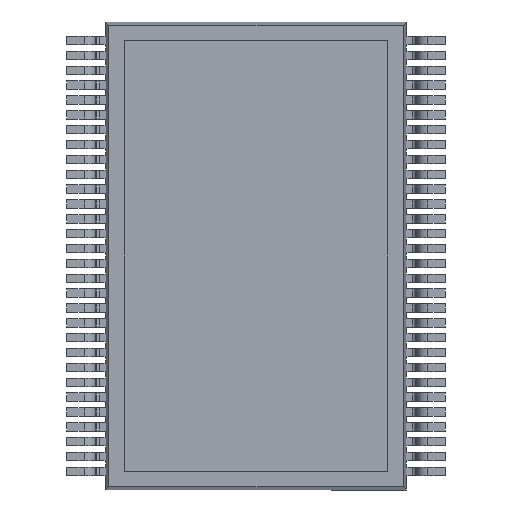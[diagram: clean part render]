
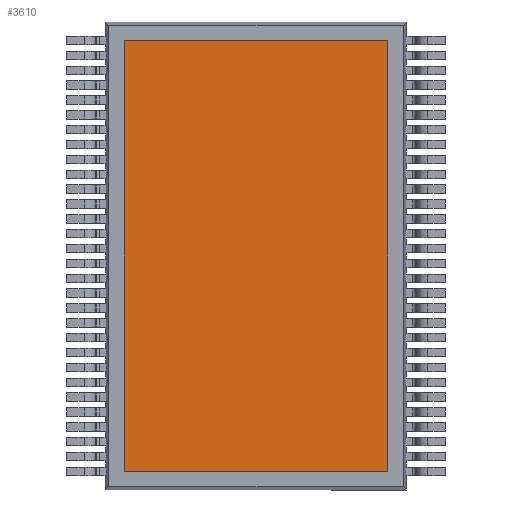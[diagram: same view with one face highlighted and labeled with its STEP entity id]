
A CAD part, front view. The second image highlights one B-rep face of the part: STEP entity #3610.
In plain terms, the highlighted planar face has unit normal (0, -1, 0).
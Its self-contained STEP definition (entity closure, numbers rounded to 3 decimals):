
#2809 = EDGE_CURVE ( 'NONE', #15721, #33961, #8834, .T. ) ;
#2812 = EDGE_CURVE ( 'NONE', #33961, #33958, #8847, .T. ) ;
#2814 = EDGE_CURVE ( 'NONE', #33958, #33945, #8849, .T. ) ;
#2815 = EDGE_CURVE ( 'NONE', #33945, #15721, #8855, .T. ) ;
#3610 = ADVANCED_FACE ( 'NONE', ( #21800 ), #18503, .F. ) ;
#8834 = LINE ( 'NONE', #10537, #8846 ) ;
#8846 = VECTOR ( 'NONE', #10542, 1000. ) ;
#8847 = LINE ( 'NONE', #10543, #8852 ) ;
#8849 = LINE ( 'NONE', #10545, #8856 ) ;
#8852 = VECTOR ( 'NONE', #10548, 1000. ) ;
#8855 = LINE ( 'NONE', #10552, #8858 ) ;
#8856 = VECTOR ( 'NONE', #10551, 1000. ) ;
#8858 = VECTOR ( 'NONE', #10554, 1000. ) ;
#10537 = CARTESIAN_POINT ( 'NONE',  ( 3.55, 0., 5.8 ) ) ;
#10542 = DIRECTION ( 'NONE',  ( 0., 0., 1. ) ) ;
#10543 = CARTESIAN_POINT ( 'NONE',  ( -3.55, 0., 5.8 ) ) ;
#10545 = CARTESIAN_POINT ( 'NONE',  ( -3.55, 0., 5.8 ) ) ;
#10548 = DIRECTION ( 'NONE',  ( -1., 0., 0. ) ) ;
#10551 = DIRECTION ( 'NONE',  ( 0., 0., -1. ) ) ;
#10552 = CARTESIAN_POINT ( 'NONE',  ( -3.55, 0., -5.8 ) ) ;
#10554 = DIRECTION ( 'NONE',  ( 1., 0., 0. ) ) ;
#15721 = VERTEX_POINT ( 'NONE', #18621 ) ;
#18503 = PLANE ( 'NONE',  #19272 ) ;
#18522 = CARTESIAN_POINT ( 'NONE',  ( 0., 0., 0. ) ) ;
#18523 = DIRECTION ( 'NONE',  ( 0., 1., 0. ) ) ;
#18524 = DIRECTION ( 'NONE',  ( 0., 0., 1. ) ) ;
#18621 = CARTESIAN_POINT ( 'NONE',  ( 3.55, 0., -5.8 ) ) ;
#18685 = CARTESIAN_POINT ( 'NONE',  ( -3.55, 0., -5.8 ) ) ;
#18698 = CARTESIAN_POINT ( 'NONE',  ( -3.55, 0., 5.8 ) ) ;
#18701 = CARTESIAN_POINT ( 'NONE',  ( 3.55, 0., 5.8 ) ) ;
#19272 = AXIS2_PLACEMENT_3D ( 'NONE', #18522, #18523, #18524 ) ;
#21800 = FACE_OUTER_BOUND ( 'NONE', #31963, .T. ) ;
#31936 = ORIENTED_EDGE ( 'NONE', *, *, #2809, .T. ) ;
#31938 = ORIENTED_EDGE ( 'NONE', *, *, #2812, .T. ) ;
#31939 = ORIENTED_EDGE ( 'NONE', *, *, #2814, .T. ) ;
#31941 = ORIENTED_EDGE ( 'NONE', *, *, #2815, .T. ) ;
#31963 = EDGE_LOOP ( 'NONE', ( #31936, #31938, #31939, #31941 ) ) ;
#33945 = VERTEX_POINT ( 'NONE', #18685 ) ;
#33958 = VERTEX_POINT ( 'NONE', #18698 ) ;
#33961 = VERTEX_POINT ( 'NONE', #18701 ) ;
